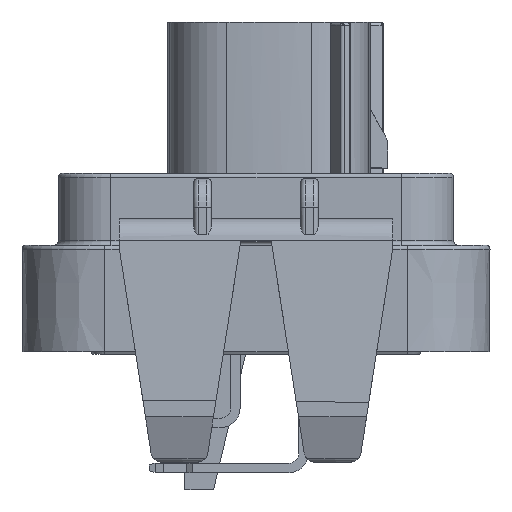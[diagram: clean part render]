
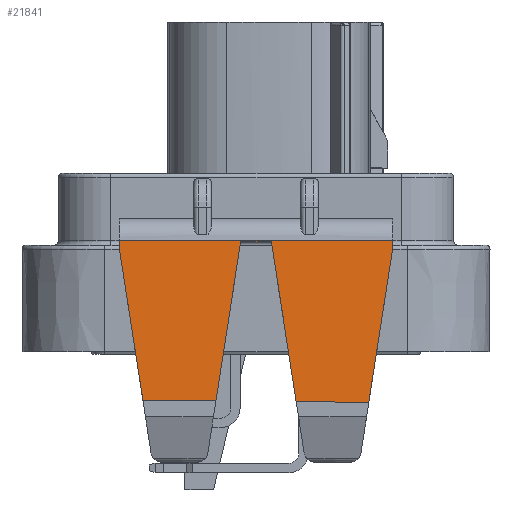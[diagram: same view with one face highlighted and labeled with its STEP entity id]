
A CAD part, left-side view. The second image highlights one B-rep face of the part: STEP entity #21841.
In plain terms, the highlighted planar face has unit normal (-0.998, 0, 0.056) as drawn and (0.998, 0, 0.056) by its records, which use the part's own axes.
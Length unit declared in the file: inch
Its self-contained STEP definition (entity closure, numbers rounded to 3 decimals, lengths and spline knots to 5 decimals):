
#1284=DIRECTION('',(0.056,0.,-0.998));
#1285=VECTOR('',#1284,0.03151);
#1286=CARTESIAN_POINT('',(2.39958,0.475,0.01647));
#1287=LINE('',#1286,#1285);
#1418=DIRECTION('',(0.056,0.,-0.998));
#1419=VECTOR('',#1418,0.03151);
#1420=CARTESIAN_POINT('',(2.39958,-0.475,0.01647));
#1421=LINE('',#1420,#1419);
#1765=DIRECTION('',(0.055,0.153,-0.987));
#1766=VECTOR('',#1765,0.56623);
#1767=CARTESIAN_POINT('',(2.39983,0.0533,0.012));
#1768=LINE('',#1767,#1766);
#1784=DIRECTION('',(0.,-1.,0.));
#1785=VECTOR('',#1784,0.10661);
#1786=CARTESIAN_POINT('',(2.39983,0.0533,0.012));
#1787=LINE('',#1786,#1785);
#1788=DIRECTION('',(0.,-1.,0.009));
#1789=VECTOR('',#1788,0.25338);
#1790=CARTESIAN_POINT('',(2.43092,-0.13974,
-0.54418));
#1791=LINE('',#1790,#1789);
#1792=DIRECTION('',(-0.055,-0.153,0.987));
#1793=VECTOR('',#1792,0.53408);
#1794=CARTESIAN_POINT('',(2.4308,-0.39311,
-0.54194));
#1795=LINE('',#1794,#1793);
#1796=DIRECTION('',(0.,1.,0.));
#1797=VECTOR('',#1796,0.95);
#1798=CARTESIAN_POINT('',(2.39958,-0.475,0.01647));
#1799=LINE('',#1798,#1797);
#1800=DIRECTION('',(-0.055,0.153,0.987));
#1801=VECTOR('',#1800,0.54112);
#1802=CARTESIAN_POINT('',(2.43119,0.39203,
-0.54889));
#1803=LINE('',#1802,#1801);
#1804=DIRECTION('',(0.,-1.,0.009));
#1805=VECTOR('',#1804,0.25192);
#1806=CARTESIAN_POINT('',(2.43119,0.39203,
-0.54889));
#1807=LINE('',#1806,#1805);
#1820=DIRECTION('',(-0.055,0.153,0.987));
#1821=VECTOR('',#1820,0.56372);
#1822=CARTESIAN_POINT('',(2.43092,-0.13974,
-0.54418));
#1823=LINE('',#1822,#1821);
#15211=CARTESIAN_POINT('',(2.39958,-0.475,0.01647));
#15213=VERTEX_POINT('',#15211);
#15215=CARTESIAN_POINT('',(2.39958,0.475,0.01647));
#15217=VERTEX_POINT('',#15215);
#15278=CARTESIAN_POINT('',(2.40134,-0.475,-0.015));
#15280=VERTEX_POINT('',#15278);
#15282=CARTESIAN_POINT('',(2.40134,0.475,-0.015));
#15284=VERTEX_POINT('',#15282);
#15286=CARTESIAN_POINT('',(2.39983,0.0533,0.012));
#15287=CARTESIAN_POINT('',(2.39983,-0.0533,0.012));
#15288=VERTEX_POINT('',#15286);
#15289=VERTEX_POINT('',#15287);
#15290=CARTESIAN_POINT('',(2.4308,-0.39311,
-0.54194));
#15291=VERTEX_POINT('',#15290);
#15292=CARTESIAN_POINT('',(2.43119,0.39203,
-0.54889));
#15293=VERTEX_POINT('',#15292);
#18726=CARTESIAN_POINT('',(2.43106,0.14012,
-0.54666));
#18727=VERTEX_POINT('',#18726);
#18728=CARTESIAN_POINT('',(2.43092,-0.13974,
-0.54418));
#18729=VERTEX_POINT('',#18728);
#21820=CARTESIAN_POINT('',(2.39958,-0.475,0.01647));
#21821=DIRECTION('',(0.998,0.,0.056));
#21822=DIRECTION('',(0.056,0.,-0.998));
#21823=AXIS2_PLACEMENT_3D('',#21820,#21821,#21822);
#21824=PLANE('',#21823);
#21825=ORIENTED_EDGE('',*,*,#21792,.F.);
#21826=ORIENTED_EDGE('',*,*,#21579,.T.);
#21828=ORIENTED_EDGE('',*,*,#21827,.F.);
#21830=ORIENTED_EDGE('',*,*,#21829,.T.);
#21831=ORIENTED_EDGE('',*,*,#21650,.T.);
#21832=ORIENTED_EDGE('',*,*,#21359,.F.);
#21833=ORIENTED_EDGE('',*,*,#21003,.T.);
#21834=ORIENTED_EDGE('',*,*,#21238,.T.);
#21836=ORIENTED_EDGE('',*,*,#21835,.F.);
#21838=ORIENTED_EDGE('',*,*,#21837,.T.);
#21839=EDGE_LOOP('',(#21825,#21826,#21828,#21830,#21831,#21832,#21833,#21834,
#21836,#21838));
#21840=FACE_OUTER_BOUND('',#21839,.F.);
#21841=ADVANCED_FACE('',(#21840),#21824,.T.);
#21003=EDGE_CURVE('',#15213,#15217,#1799,.T.);
#21238=EDGE_CURVE('',#15217,#15284,#1287,.T.);
#21359=EDGE_CURVE('',#15213,#15280,#1421,.T.);
#21579=EDGE_CURVE('',#15288,#15289,#1787,.T.);
#21650=EDGE_CURVE('',#15291,#15280,#1795,.T.);
#21792=EDGE_CURVE('',#15288,#18727,#1768,.T.);
#21827=EDGE_CURVE('',#18729,#15289,#1823,.T.);
#21829=EDGE_CURVE('',#18729,#15291,#1791,.T.);
#21835=EDGE_CURVE('',#15293,#15284,#1803,.T.);
#21837=EDGE_CURVE('',#15293,#18727,#1807,.T.);
